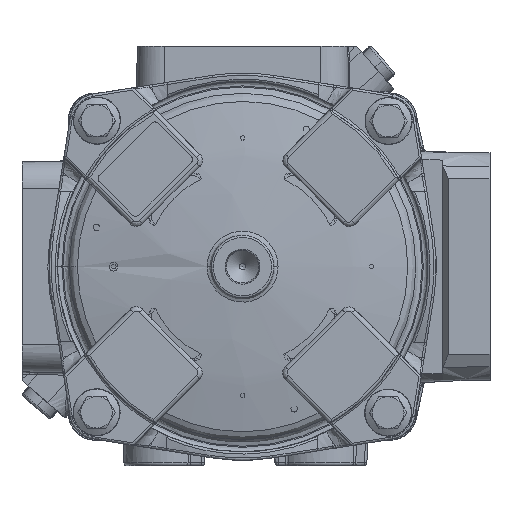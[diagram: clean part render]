
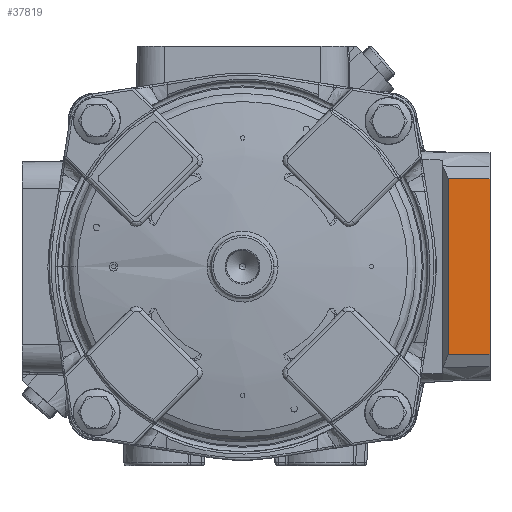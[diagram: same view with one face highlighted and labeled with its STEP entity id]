
A CAD part, front view. The second image highlights one B-rep face of the part: STEP entity #37819.
In plain terms, the highlighted free-form (B-spline) face has degree [1, 1] with [2, 2] control points.
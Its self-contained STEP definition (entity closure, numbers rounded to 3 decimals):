
#37784=CARTESIAN_POINT('F564',(121.586,
   -51.776,-47.953));
#37785=CARTESIAN_POINT('F564',(121.586,
   -51.776,47.953));
#37786=CARTESIAN_POINT('F564',(-11.086,
   -55.25,-47.953));
#37787=CARTESIAN_POINT('F564',(-11.086,
   -55.25,47.953));
#37788=B_SPLINE_SURFACE_WITH_KNOTS('F564',1,1,((#37784,#37786),(
   #37785,#37787)),.PLANE_SURF.,.F.,.F.,.U.,(2,2),(2,2),(0.0,1.0),
   (0.0,1.384),.UNSPECIFIED.);
#37789=CARTESIAN_POINT('V1066',(91.861,
   -52.554,39.308));
#37790=VERTEX_POINT('V1066',#37789);
#37791=CARTESIAN_POINT('V1068',(91.861,
   -52.554,-39.308));
#37792=VERTEX_POINT('V1068',#37791);
#37793=CARTESIAN_POINT('E1661',(91.861,
   -52.554,39.308));
#37794=CARTESIAN_POINT('E1661',(91.861,
   -52.554,-39.308));
#37795=B_SPLINE_CURVE_WITH_KNOTS('E1661',1,(#37793,#37794),
   .POLYLINE_FORM.,.F.,.U.,(2,2),(0.014,
   0.986),.UNSPECIFIED.);
#37796=EDGE_CURVE('E1661',#37790,#37792,#37795,.T.);
#37797=ORIENTED_EDGE('E1661',*,*,#37796,.T.);
#37798=CARTESIAN_POINT('V1069',(110.5,
   -52.066,-39.182));
#37799=VERTEX_POINT('V1069',#37798);
#37800=CARTESIAN_POINT('E1662',(91.861,
   -52.554,-39.308));
#37801=CARTESIAN_POINT('E1662',(110.5,
   -52.066,-39.182));
#37802=B_SPLINE_CURVE_WITH_KNOTS('E1662',1,(#37800,#37801),
   .POLYLINE_FORM.,.F.,.U.,(2,2),(0.831,1.0),
   .UNSPECIFIED.);
#37803=EDGE_CURVE('E1662',#37792,#37799,#37802,.T.);
#37804=ORIENTED_EDGE('E1662',*,*,#37803,.T.);
#37805=CARTESIAN_POINT('V1067',(110.5,
   -52.066,39.182));
#37806=VERTEX_POINT('V1067',#37805);
#37807=CARTESIAN_POINT('E1663',(110.5,
   -52.066,39.182));
#37808=CARTESIAN_POINT('E1663',(110.5,
   -52.066,-39.182));
#37809=QUASI_UNIFORM_CURVE('E1663',1,(#37807,#37808),.POLYLINE_FORM.,
   .F.,.U.);
#37810=EDGE_CURVE('E1663',#37806,#37799,#37809,.T.);
#37811=ORIENTED_EDGE('E1663',*,*,#37810,.F.);
#37812=CARTESIAN_POINT('E1659',(110.5,
   -52.066,39.182));
#37813=CARTESIAN_POINT('E1659',(91.861,
   -52.554,39.308));
#37814=B_SPLINE_CURVE_WITH_KNOTS('E1659',1,(#37812,#37813),
   .POLYLINE_FORM.,.F.,.U.,(2,2),(0.0,0.169),
   .UNSPECIFIED.);
#37815=EDGE_CURVE('E1659',#37806,#37790,#37814,.T.);
#37816=ORIENTED_EDGE('E1659',*,*,#37815,.T.);
#37817=EDGE_LOOP('F564',(#37797,#37804,#37811,#37816));
#37818=FACE_OUTER_BOUND('F564',#37817,.T.);
#37819=ADVANCED_FACE('F564',(#37818),#37788,.T.);
